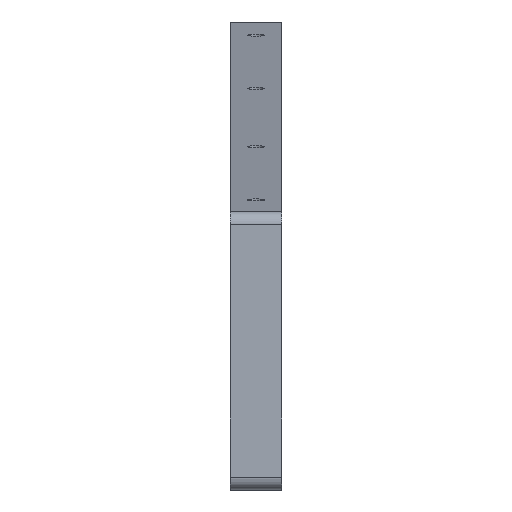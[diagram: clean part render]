
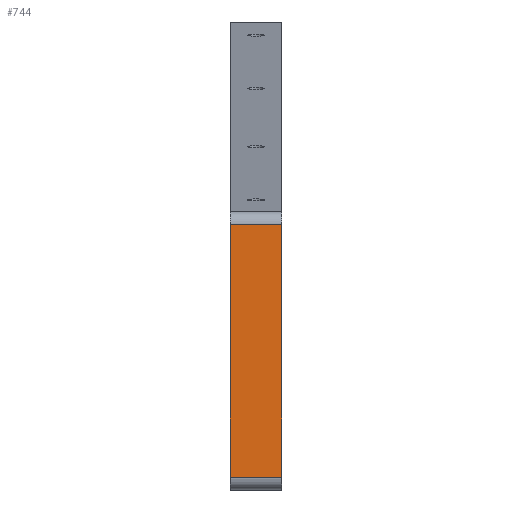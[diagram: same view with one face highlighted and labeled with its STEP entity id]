
A CAD part, front view. The second image highlights one B-rep face of the part: STEP entity #744.
In plain terms, the highlighted planar face has unit normal (0, -1, 0).
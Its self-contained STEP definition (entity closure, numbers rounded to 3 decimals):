
#44 = PLANE('',#45);
#45 = AXIS2_PLACEMENT_3D('',#46,#47,#48);
#46 = CARTESIAN_POINT('',(0.,120.969,29.487));
#47 = DIRECTION('',(1.,0.,0.));
#48 = DIRECTION('',(-0.,0.,1.));
#72 = CYLINDRICAL_SURFACE('',#73,2.);
#73 = AXIS2_PLACEMENT_3D('',#74,#75,#76);
#74 = CARTESIAN_POINT('',(0.,2.,2.));
#75 = DIRECTION('',(1.,0.,0.));
#76 = DIRECTION('',(0.,0.,-1.));
#100 = PLANE('',#101);
#101 = AXIS2_PLACEMENT_3D('',#102,#103,#104);
#102 = CARTESIAN_POINT('',(8.,120.969,29.487));
#103 = DIRECTION('',(1.,0.,0.));
#104 = DIRECTION('',(-0.,0.,1.));
#252 = VERTEX_POINT('',#253);
#253 = CARTESIAN_POINT('',(0.,0.,41.244));
#268 = CYLINDRICAL_SURFACE('',#269,2.);
#269 = AXIS2_PLACEMENT_3D('',#270,#271,#272);
#270 = CARTESIAN_POINT('',(0.,2.,41.244));
#271 = DIRECTION('',(1.,0.,0.));
#272 = DIRECTION('',(0.,-0.129,0.992));
#280 = EDGE_CURVE('',#252,#281,#283,.T.);
#281 = VERTEX_POINT('',#282);
#282 = CARTESIAN_POINT('',(0.,0.,2.));
#283 = SURFACE_CURVE('',#284,(#288,#295),.PCURVE_S1.);
#284 = LINE('',#285,#286);
#285 = CARTESIAN_POINT('',(0.,0.,43.));
#286 = VECTOR('',#287,1.);
#287 = DIRECTION('',(0.,0.,-1.));
#288 = PCURVE('',#44,#289);
#289 = DEFINITIONAL_REPRESENTATION('',(#290),#294);
#290 = LINE('',#291,#292);
#291 = CARTESIAN_POINT('',(13.513,120.969));
#292 = VECTOR('',#293,1.);
#293 = DIRECTION('',(-1.,0.));
#294 = ( GEOMETRIC_REPRESENTATION_CONTEXT(2) 
PARAMETRIC_REPRESENTATION_CONTEXT() REPRESENTATION_CONTEXT('2D SPACE',''
  ) );
#295 = PCURVE('',#296,#301);
#296 = PLANE('',#297);
#297 = AXIS2_PLACEMENT_3D('',#298,#299,#300);
#298 = CARTESIAN_POINT('',(0.,0.,43.));
#299 = DIRECTION('',(-0.,1.,0.));
#300 = DIRECTION('',(0.,0.,-1.));
#301 = DEFINITIONAL_REPRESENTATION('',(#302),#306);
#302 = LINE('',#303,#304);
#303 = CARTESIAN_POINT('',(0.,0.));
#304 = VECTOR('',#305,1.);
#305 = DIRECTION('',(1.,0.));
#306 = ( GEOMETRIC_REPRESENTATION_CONTEXT(2) 
PARAMETRIC_REPRESENTATION_CONTEXT() REPRESENTATION_CONTEXT('2D SPACE',''
  ) );
#431 = EDGE_CURVE('',#281,#432,#434,.T.);
#432 = VERTEX_POINT('',#433);
#433 = CARTESIAN_POINT('',(8.,0.,2.));
#434 = SURFACE_CURVE('',#435,(#439,#446),.PCURVE_S1.);
#435 = LINE('',#436,#437);
#436 = CARTESIAN_POINT('',(0.,0.,2.));
#437 = VECTOR('',#438,1.);
#438 = DIRECTION('',(1.,0.,0.));
#439 = PCURVE('',#72,#440);
#440 = DEFINITIONAL_REPRESENTATION('',(#441),#445);
#441 = LINE('',#442,#443);
#442 = CARTESIAN_POINT('',(-1.571,0.));
#443 = VECTOR('',#444,1.);
#444 = DIRECTION('',(-0.,1.));
#445 = ( GEOMETRIC_REPRESENTATION_CONTEXT(2) 
PARAMETRIC_REPRESENTATION_CONTEXT() REPRESENTATION_CONTEXT('2D SPACE',''
  ) );
#446 = PCURVE('',#296,#447);
#447 = DEFINITIONAL_REPRESENTATION('',(#448),#452);
#448 = LINE('',#449,#450);
#449 = CARTESIAN_POINT('',(41.,-0.));
#450 = VECTOR('',#451,1.);
#451 = DIRECTION('',(0.,-1.));
#452 = ( GEOMETRIC_REPRESENTATION_CONTEXT(2) 
PARAMETRIC_REPRESENTATION_CONTEXT() REPRESENTATION_CONTEXT('2D SPACE',''
  ) );
#607 = VERTEX_POINT('',#608);
#608 = CARTESIAN_POINT('',(8.,0.,41.244));
#630 = EDGE_CURVE('',#607,#432,#631,.T.);
#631 = SURFACE_CURVE('',#632,(#636,#643),.PCURVE_S1.);
#632 = LINE('',#633,#634);
#633 = CARTESIAN_POINT('',(8.,0.,43.));
#634 = VECTOR('',#635,1.);
#635 = DIRECTION('',(0.,0.,-1.));
#636 = PCURVE('',#100,#637);
#637 = DEFINITIONAL_REPRESENTATION('',(#638),#642);
#638 = LINE('',#639,#640);
#639 = CARTESIAN_POINT('',(13.513,120.969));
#640 = VECTOR('',#641,1.);
#641 = DIRECTION('',(-1.,0.));
#642 = ( GEOMETRIC_REPRESENTATION_CONTEXT(2) 
PARAMETRIC_REPRESENTATION_CONTEXT() REPRESENTATION_CONTEXT('2D SPACE',''
  ) );
#643 = PCURVE('',#296,#644);
#644 = DEFINITIONAL_REPRESENTATION('',(#645),#649);
#645 = LINE('',#646,#647);
#646 = CARTESIAN_POINT('',(0.,-8.));
#647 = VECTOR('',#648,1.);
#648 = DIRECTION('',(1.,0.));
#649 = ( GEOMETRIC_REPRESENTATION_CONTEXT(2) 
PARAMETRIC_REPRESENTATION_CONTEXT() REPRESENTATION_CONTEXT('2D SPACE',''
  ) );
#744 = ADVANCED_FACE('',(#745),#296,.F.);
#745 = FACE_BOUND('',#746,.F.);
#746 = EDGE_LOOP('',(#747,#748,#769,#770));
#747 = ORIENTED_EDGE('',*,*,#280,.F.);
#748 = ORIENTED_EDGE('',*,*,#749,.T.);
#749 = EDGE_CURVE('',#252,#607,#750,.T.);
#750 = SURFACE_CURVE('',#751,(#755,#762),.PCURVE_S1.);
#751 = LINE('',#752,#753);
#752 = CARTESIAN_POINT('',(0.,0.,41.244));
#753 = VECTOR('',#754,1.);
#754 = DIRECTION('',(1.,0.,0.));
#755 = PCURVE('',#296,#756);
#756 = DEFINITIONAL_REPRESENTATION('',(#757),#761);
#757 = LINE('',#758,#759);
#758 = CARTESIAN_POINT('',(1.756,-0.));
#759 = VECTOR('',#760,1.);
#760 = DIRECTION('',(0.,-1.));
#761 = ( GEOMETRIC_REPRESENTATION_CONTEXT(2) 
PARAMETRIC_REPRESENTATION_CONTEXT() REPRESENTATION_CONTEXT('2D SPACE',''
  ) );
#762 = PCURVE('',#268,#763);
#763 = DEFINITIONAL_REPRESENTATION('',(#764),#768);
#764 = LINE('',#765,#766);
#765 = CARTESIAN_POINT('',(1.441,0.));
#766 = VECTOR('',#767,1.);
#767 = DIRECTION('',(0.,1.));
#768 = ( GEOMETRIC_REPRESENTATION_CONTEXT(2) 
PARAMETRIC_REPRESENTATION_CONTEXT() REPRESENTATION_CONTEXT('2D SPACE',''
  ) );
#769 = ORIENTED_EDGE('',*,*,#630,.T.);
#770 = ORIENTED_EDGE('',*,*,#431,.F.);
